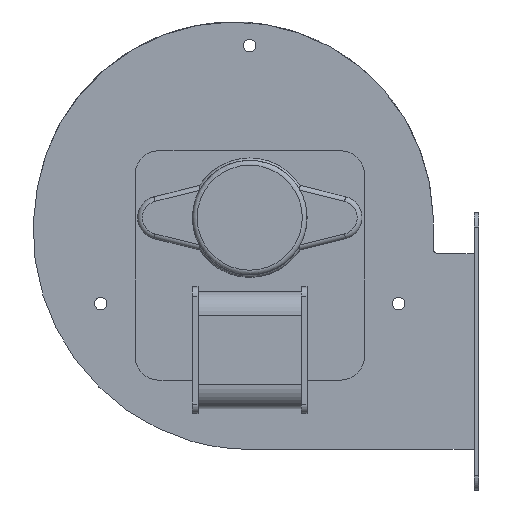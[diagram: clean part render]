
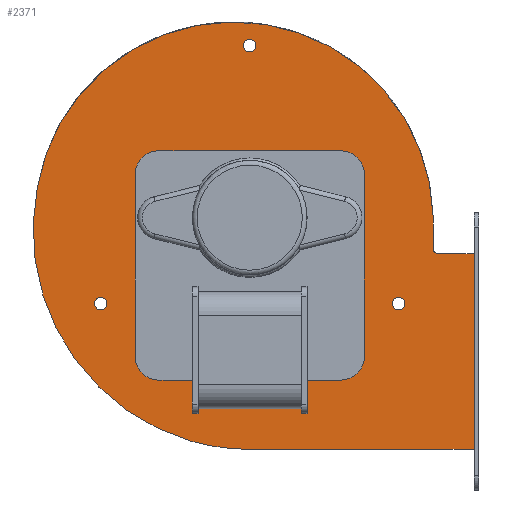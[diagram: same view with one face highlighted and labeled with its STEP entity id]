
A CAD part, left-side view. The second image highlights one B-rep face of the part: STEP entity #2371.
In plain terms, the highlighted planar face has unit normal (-1, 0, 0).
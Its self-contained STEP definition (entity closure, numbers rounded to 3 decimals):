
#143=LINE('',#3658,#329);
#157=LINE('',#3700,#343);
#158=LINE('',#3702,#344);
#161=LINE('',#3710,#347);
#329=VECTOR('',#2896,1000.);
#343=VECTOR('',#2938,1000.);
#344=VECTOR('',#2941,1000.);
#347=VECTOR('',#2950,1000.);
#616=ORIENTED_EDGE('',*,*,#1280,.T.);
#617=ORIENTED_EDGE('',*,*,#1279,.T.);
#618=ORIENTED_EDGE('',*,*,#1278,.T.);
#619=ORIENTED_EDGE('',*,*,#1263,.T.);
#620=ORIENTED_EDGE('',*,*,#1266,.T.);
#621=ORIENTED_EDGE('',*,*,#1243,.T.);
#622=ORIENTED_EDGE('',*,*,#1267,.T.);
#623=ORIENTED_EDGE('',*,*,#1269,.T.);
#624=ORIENTED_EDGE('',*,*,#1271,.T.);
#625=ORIENTED_EDGE('',*,*,#1273,.T.);
#626=ORIENTED_EDGE('',*,*,#1283,.T.);
#627=ORIENTED_EDGE('',*,*,#1284,.T.);
#1243=EDGE_CURVE('',#1590,#1591,#143,.T.);
#1263=EDGE_CURVE('',#1602,#1603,#1822,.T.);
#1266=EDGE_CURVE('',#1603,#1590,#157,.T.);
#1267=EDGE_CURVE('',#1591,#1604,#158,.T.);
#1269=EDGE_CURVE('',#1604,#1605,#1823,.T.);
#1271=EDGE_CURVE('',#1605,#1606,#161,.T.);
#1273=EDGE_CURVE('',#1606,#1607,#1824,.T.);
#1278=EDGE_CURVE('',#1610,#1610,#1826,.T.);
#1279=EDGE_CURVE('',#1611,#1611,#1827,.T.);
#1280=EDGE_CURVE('',#1612,#1612,#1828,.T.);
#1283=EDGE_CURVE('',#1607,#1602,#1831,.T.);
#1284=EDGE_CURVE('',#1615,#1615,#1832,.T.);
#1590=VERTEX_POINT('',#3659);
#1591=VERTEX_POINT('',#3660);
#1602=VERTEX_POINT('',#3695);
#1603=VERTEX_POINT('',#3696);
#1604=VERTEX_POINT('',#3703);
#1605=VERTEX_POINT('',#3707);
#1606=VERTEX_POINT('',#3711);
#1607=VERTEX_POINT('',#3715);
#1610=VERTEX_POINT('',#3724);
#1611=VERTEX_POINT('',#3727);
#1612=VERTEX_POINT('',#3730);
#1615=VERTEX_POINT('',#3740);
#1822=CIRCLE('',#2568,44.926);
#1823=CIRCLE('',#2572,1.);
#1824=CIRCLE('',#2575,41.741);
#1826=CIRCLE('',#2578,1.3);
#1827=CIRCLE('',#2580,1.3);
#1828=CIRCLE('',#2582,1.3);
#1831=CIRCLE('',#2587,46.06);
#1832=CIRCLE('',#2589,3.);
#1962=EDGE_LOOP('',(#616));
#1963=EDGE_LOOP('',(#617));
#1964=EDGE_LOOP('',(#618));
#1965=EDGE_LOOP('',(#619,#620,#621,#622,#623,#624,#625,#626));
#1966=EDGE_LOOP('',(#627));
#2144=FACE_BOUND('',#1962,.T.);
#2145=FACE_BOUND('',#1963,.T.);
#2146=FACE_BOUND('',#1964,.T.);
#2147=FACE_BOUND('',#1965,.T.);
#2148=FACE_BOUND('',#1966,.T.);
#2301=PLANE('',#2588);
#2371=ADVANCED_FACE('',(#2144,#2145,#2146,#2147,#2148),#2301,.T.);
#2568=AXIS2_PLACEMENT_3D('',#3694,#2932,#2933);
#2572=AXIS2_PLACEMENT_3D('',#3706,#2945,#2946);
#2575=AXIS2_PLACEMENT_3D('',#3714,#2954,#2955);
#2578=AXIS2_PLACEMENT_3D('',#3723,#2963,#2964);
#2580=AXIS2_PLACEMENT_3D('',#3726,#2967,#2968);
#2582=AXIS2_PLACEMENT_3D('',#3729,#2971,#2972);
#2587=AXIS2_PLACEMENT_3D('',#3737,#2981,#2982);
#2588=AXIS2_PLACEMENT_3D('',#3738,#2983,#2984);
#2589=AXIS2_PLACEMENT_3D('',#3739,#2985,#2986);
#2896=DIRECTION('',(0.,0.,1.));
#2932=DIRECTION('',(-1.,0.,0.));
#2933=DIRECTION('',(0.,1.,0.));
#2938=DIRECTION('',(0.,-1.,0.));
#2941=DIRECTION('',(0.,1.,0.));
#2945=DIRECTION('',(1.,0.,0.));
#2946=DIRECTION('',(0.,-1.,0.));
#2950=DIRECTION('',(0.,0.,1.));
#2954=DIRECTION('',(-1.,0.,0.));
#2955=DIRECTION('',(0.,1.,0.));
#2963=DIRECTION('',(1.,0.,0.));
#2964=DIRECTION('',(0.,1.,0.));
#2967=DIRECTION('',(1.,0.,0.));
#2968=DIRECTION('',(0.,1.,0.));
#2971=DIRECTION('',(1.,0.,0.));
#2972=DIRECTION('',(0.,1.,0.));
#2981=DIRECTION('',(-1.,0.,0.));
#2982=DIRECTION('',(0.,-1.,0.));
#2983=DIRECTION('',(-1.,0.,0.));
#2984=DIRECTION('',(0.,-1.,0.));
#2985=DIRECTION('',(1.,0.,0.));
#2986=DIRECTION('',(0.,0.,1.));
#3658=CARTESIAN_POINT('',(-20.5,-46.95,-48.5));
#3659=CARTESIAN_POINT('',(-20.5,-46.95,-48.5));
#3660=CARTESIAN_POINT('',(-20.5,-46.95,-7.5));
#3694=CARTESIAN_POINT('',(-20.5,-0.022,-3.574));
#3695=CARTESIAN_POINT('',(-20.5,12.103,-46.833));
#3696=CARTESIAN_POINT('',(-20.5,0.009,-48.5));
#3700=CARTESIAN_POINT('',(-20.5,0.009,-48.5));
#3702=CARTESIAN_POINT('',(-20.5,-46.95,-7.5));
#3703=CARTESIAN_POINT('',(-20.5,-39.384,-7.5));
#3706=CARTESIAN_POINT('',(-20.5,-39.384,-6.5));
#3707=CARTESIAN_POINT('',(-20.5,-38.384,-6.5));
#3710=CARTESIAN_POINT('',(-20.5,-38.384,0.398));
#3711=CARTESIAN_POINT('',(-20.5,-38.384,0.398));
#3714=CARTESIAN_POINT('',(-20.5,3.341,-0.777));
#3715=CARTESIAN_POINT('',(-20.5,44.472,6.332));
#3723=CARTESIAN_POINT('',(-20.5,0.,36.));
#3724=CARTESIAN_POINT('',(-20.5,1.3,36.));
#3726=CARTESIAN_POINT('',(-20.5,-31.177,-18.));
#3727=CARTESIAN_POINT('',(-20.5,-29.877,-18.));
#3729=CARTESIAN_POINT('',(-20.5,31.177,-18.));
#3730=CARTESIAN_POINT('',(-20.5,32.477,-18.));
#3737=CARTESIAN_POINT('',(-20.5,-0.714,-2.593));
#3738=CARTESIAN_POINT('',(-20.5,-0.022,-3.574));
#3739=CARTESIAN_POINT('',(-20.5,0.,0.));
#3740=CARTESIAN_POINT('',(-20.5,0.,3.));
